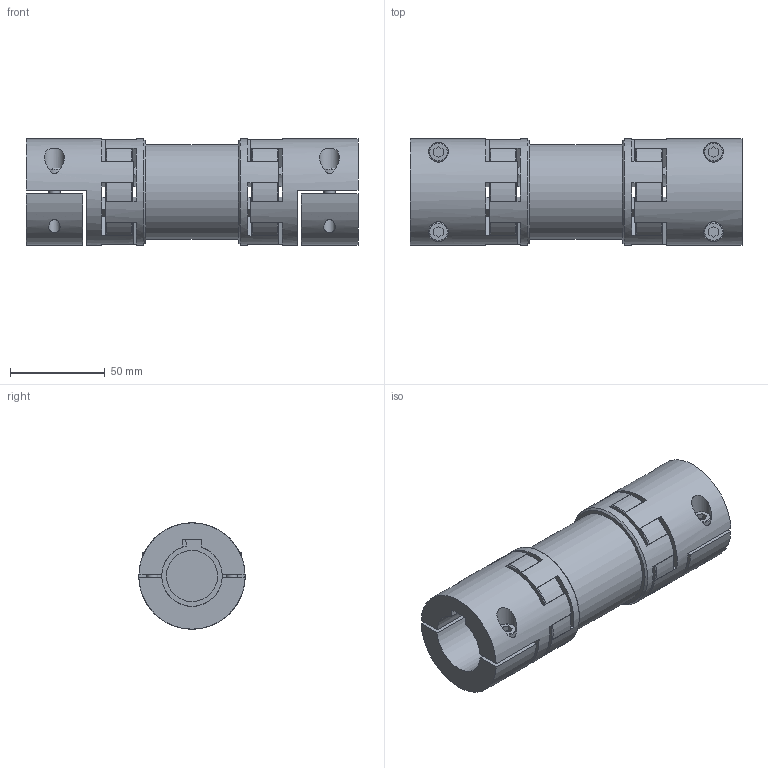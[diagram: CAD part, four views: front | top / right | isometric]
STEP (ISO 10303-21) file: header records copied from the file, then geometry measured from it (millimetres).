
FILE_DESCRIPTION(/* description */ ('STEP AP214'),/* implementation_level */ '2;1');
FILE_NAME(/* name */ 'C:\Diequa Files\DieQua Coupling\LE\STP\LE.60.L.AB.#.#.stp',/* time_stamp */ '2019-05-02T09:33:07-05:00',/* author */ ('DiequaCAD'),/* organization */ (''),/* preprocessor_version */ 'ST-DEVELOPER v18',/* originating_system */ 'Autodesk Inventor 2020',/* authorisation */ ' ');
FILE_SCHEMA (('AUTOMOTIVE_DESIGN { 1 0 10303 214 3 1 1 }'));
Length unit declared in the file: millimetre
Products named in the file (1): EZ2_60_32_PFN_32_PFN_3
Bounding box: 175 x 56 x 56 mm (x, y, z)
Volume: 236822.1 mm3; surface area: 74199.9 mm2
Topology: 1 solids, 2 shells, 230 faces, 688 edges, 460 vertices
Faces by surface type: plane 126, cylinder 66, cone 34, torus 4
Full cylindrical faces by diameter (mm): 6 x8, 6.5 x4, 10 x4, 10.5 x4, 27 x2, 40 x1, 50 x1, 56 x4
Entity records: 10354 total; most frequent: CARTESIAN_POINT 3835, ORIENTED_EDGE 1376, DIRECTION 1360, EDGE_CURVE 688, VERTEX_POINT 460, AXIS2_PLACEMENT_3D 457, LINE 446, VECTOR 446
